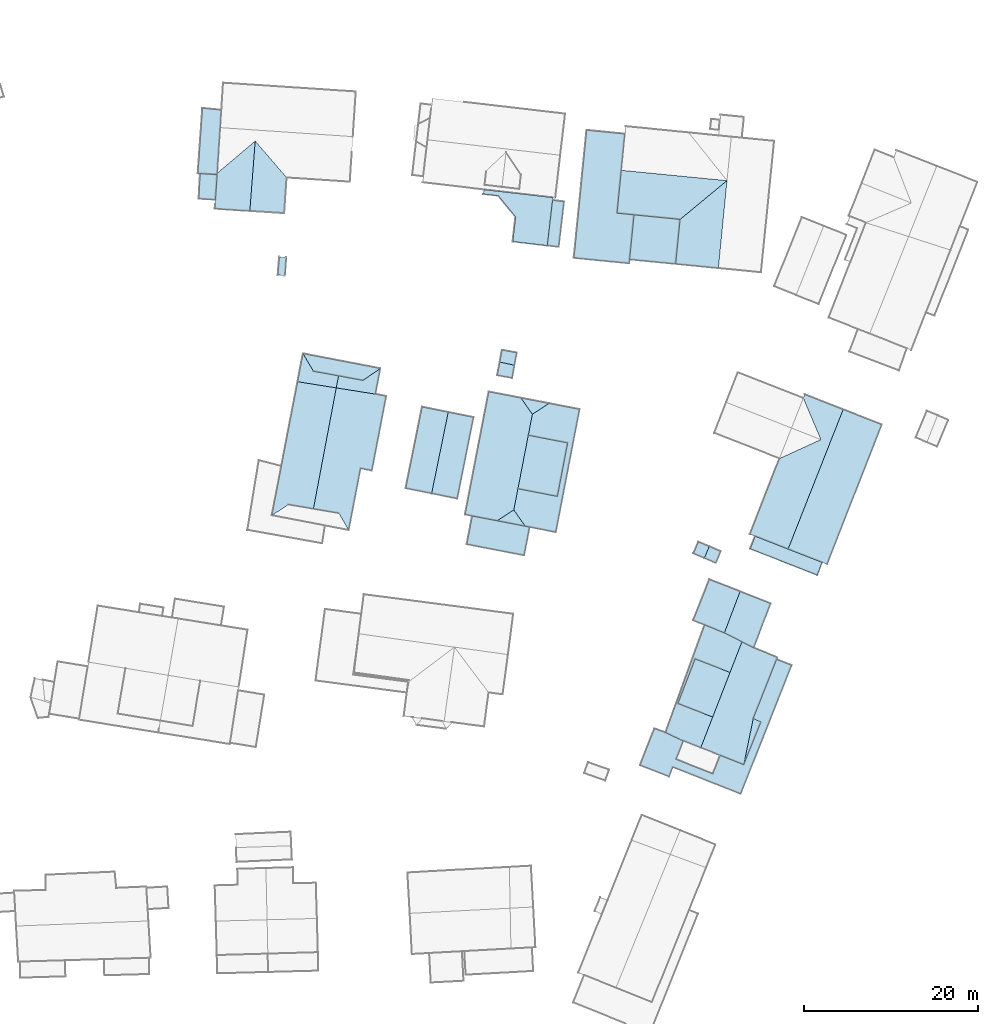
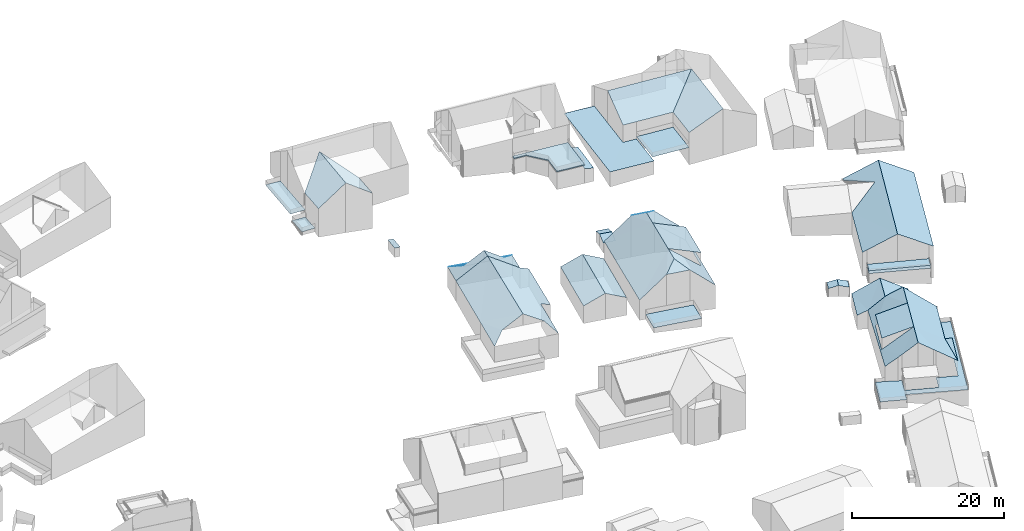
# Not in any storey, part 56 of 57: 77 roofs.
"""IFC4 building model written with IfcOpenShell, lengths in metres."""

from ifc_helpers import new_model, entity, si_unit, converted_unit, frame, origin, place, context, subcontext, project, spatial, face_set, surface_model, element, save


model = new_model("IFC4")

# Units and contexts
model_context = context("Model", 3, precision=1e-05, world=origin())
body_context = subcontext(model_context, "Body", "Model", "MODEL_VIEW")
ifc_project = project(units=[converted_unit("PLANEANGLEUNIT", "DEGREE", entity("IfcRatioMeasure", 0.0174532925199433), si_unit("PLANEANGLEUNIT", "RADIAN"), dimensions=[0, 0, 0, 0, 0, 0, 0]), si_unit("AREAUNIT", "SQUARE_METRE"), si_unit("LENGTHUNIT", "METRE")], contexts=[model_context])

# Site, building
site_placement = place(None, origin())
site = spatial("IfcSite", under=ifc_project, at=site_placement, Name="_site")
building_1_placement = place(site_placement, origin())
building_1 = spatial("IfcBuilding", under=site, at=building_1_placement, Name="_building")

# Roofs
roof_1_placement = place(building_1_placement, origin())
element("IfcRoof", 1, at=roof_1_placement, inside=building_1, Name="Roof", PredefinedType="NOTDEFINED", context=body_context, shape_type="SurfaceModel", body=[
    surface_model("IfcFaceBasedSurfaceModel", [(244.204, 127.677, 112.12), (243.928, 126.153, 111.66), (245.612, 125.843, 111.66), (245.886, 127.308, 112.12)], [face_set([[[0, 1, 2, 3]]])]),
])
roof_2_placement = place(building_1_placement, origin())
element("IfcRoof", 2, at=roof_2_placement, inside=building_1, Name="Roof", PredefinedType="NOTDEFINED", context=body_context, shape_type="SurfaceModel", body=[
    surface_model("IfcFaceBasedSurfaceModel", [(245.886, 127.308, 112.12), (246.15, 128.743, 111.66), (244.456, 129.053, 111.66), (244.204, 127.677, 112.12)], [face_set([[[0, 1, 2, 3]]])]),
])
roof_3_placement = place(building_1_placement, origin())
element("IfcRoof", 3, at=roof_3_placement, inside=building_1, Name="Roof", PredefinedType="NOTDEFINED", context=body_context, shape_type="SurfaceModel", body=[
    surface_model("IfcFaceBasedSurfaceModel", [(244.204, 127.677, 112.12), (243.928, 126.153, 111.66), (245.612, 125.843, 111.66), (245.886, 127.308, 112.12)], [face_set([[[0, 1, 2, 3]]])]),
])
roof_4_placement = place(building_1_placement, origin())
element("IfcRoof", 4, at=roof_4_placement, inside=building_1, Name="Roof", PredefinedType="NOTDEFINED", context=body_context, shape_type="SurfaceModel", body=[
    surface_model("IfcFaceBasedSurfaceModel", [(245.886, 127.308, 112.12), (246.15, 128.743, 111.66), (244.456, 129.053, 111.66), (244.204, 127.677, 112.12)], [face_set([[[0, 1, 2, 3]]])]),
])

# Building
building_2_placement = place(site_placement, origin())
building_2 = spatial("IfcBuilding", under=site, at=building_2_placement, Name="_building")

# Roofs
roof_5_placement = place(building_2_placement, origin())
element("IfcRoof", 5, at=roof_5_placement, inside=building_2, Name="Roof", PredefinedType="NOTDEFINED", context=body_context, shape_type="SurfaceModel", body=[
    surface_model("IfcFaceBasedSurfaceModel", [(246.281, 113.141, 117.86), (247.469, 119.276, 117.86), (247.936, 121.686, 117.86), (246.629, 123.558, 116.72), (242.943, 124.265, 113.45), (240.222, 110.18, 113.45), (243.898, 109.473, 116.72), (245.808, 110.72, 117.86)], [face_set([[[0, 1, 2, 3, 4, 5, 6, 7]]])]),
])
roof_6_placement = place(building_2_placement, origin())
element("IfcRoof", 6, at=roof_6_placement, inside=building_2, Name="Roof", PredefinedType="NOTDEFINED", context=body_context, shape_type="SurfaceModel", body=[
    surface_model("IfcFaceBasedSurfaceModel", [(245.808, 110.72, 117.86), (247.115, 108.848, 116.72), (250.631, 108.165, 113.45), (253.353, 122.25, 113.45), (249.846, 122.932, 116.72), (247.936, 121.686, 117.86), (247.469, 119.276, 117.86), (251.992, 118.399, 114.013), (250.807, 112.263, 114.004), (246.281, 113.141, 117.86)], [face_set([[[0, 1, 2, 3, 4, 5, 6, 7, 8, 9]]])]),
])
roof_7_placement = place(building_2_placement, origin())
element("IfcRoof", 7, at=roof_7_placement, inside=building_2, Name="Roof", PredefinedType="NOTDEFINED", context=body_context, shape_type="SurfaceModel", body=[
    surface_model("IfcFaceBasedSurfaceModel", [(246.281, 113.141, 117.86), (250.807, 112.263, 116.15), (251.992, 118.399, 116.15), (247.469, 119.276, 117.86)], [face_set([[[0, 1, 2, 3]]])]),
])
roof_8_placement = place(building_2_placement, origin())
element("IfcRoof", 8, at=roof_8_placement, inside=building_2, Name="Roof", PredefinedType="NOTDEFINED", context=body_context, shape_type="SurfaceModel", body=[
    surface_model("IfcFaceBasedSurfaceModel", [(249.846, 122.932, 116.72), (246.629, 123.558, 116.72), (247.936, 121.686, 117.86)], [face_set([[[0, 1, 2]]])]),
])
roof_9_placement = place(building_2_placement, origin())
element("IfcRoof", 9, at=roof_9_placement, inside=building_2, Name="Roof", PredefinedType="NOTDEFINED", context=body_context, shape_type="SurfaceModel", body=[
    surface_model("IfcFaceBasedSurfaceModel", [(245.808, 110.72, 117.86), (243.898, 109.473, 116.72), (247.115, 108.848, 116.72)], [face_set([[[0, 1, 2]]])]),
])
roof_10_placement = place(building_2_placement, origin())
element("IfcRoof", 10, at=roof_10_placement, inside=building_2, Name="Roof", PredefinedType="NOTDEFINED", context=body_context, shape_type="SurfaceModel", body=[
    surface_model("IfcFaceBasedSurfaceModel", [(245.808, 110.72, 117.86), (247.115, 108.848, 116.72), (250.631, 108.165, 113.45), (253.353, 122.25, 113.45), (249.846, 122.932, 116.72), (247.936, 121.686, 117.86), (247.469, 119.276, 117.86), (251.992, 118.399, 114.013), (250.807, 112.263, 114.004), (246.281, 113.141, 117.86)], [face_set([[[0, 1, 2, 3, 4, 5, 6, 7, 8, 9]]])]),
])
roof_11_placement = place(building_2_placement, origin())
element("IfcRoof", 11, at=roof_11_placement, inside=building_2, Name="Roof", PredefinedType="NOTDEFINED", context=body_context, shape_type="SurfaceModel", body=[
    surface_model("IfcFaceBasedSurfaceModel", [(246.281, 113.141, 117.86), (247.469, 119.276, 117.86), (247.936, 121.686, 117.86), (246.629, 123.558, 116.72), (242.943, 124.265, 113.45), (240.222, 110.18, 113.45), (243.898, 109.473, 116.72), (245.808, 110.72, 117.86)], [face_set([[[0, 1, 2, 3, 4, 5, 6, 7]]])]),
])
roof_12_placement = place(building_2_placement, origin())
element("IfcRoof", 12, at=roof_12_placement, inside=building_2, Name="Roof", PredefinedType="NOTDEFINED", context=body_context, shape_type="SurfaceModel", body=[
    surface_model("IfcFaceBasedSurfaceModel", [(246.281, 113.141, 117.86), (250.807, 112.263, 116.15), (251.992, 118.399, 116.15), (247.469, 119.276, 117.86)], [face_set([[[0, 1, 2, 3]]])]),
])
roof_13_placement = place(building_2_placement, origin())
element("IfcRoof", 13, at=roof_13_placement, inside=building_2, Name="Roof", PredefinedType="NOTDEFINED", context=body_context, shape_type="SurfaceModel", body=[
    surface_model("IfcFaceBasedSurfaceModel", [(249.846, 122.932, 116.72), (246.629, 123.558, 116.72), (247.936, 121.686, 117.86)], [face_set([[[0, 1, 2]]])]),
])
for number, where, name in (
    (14, (0.0, 0.0, 0.0), "Roof"),
    (15, (0.0, 0.0, 0.0), "Roof"),
):
    element("IfcRoof", number, at=place(building_2_placement, frame(where)), inside=building_2, Name=name, PredefinedType="NOTDEFINED", context=body_context, shape_type="SurfaceModel", body=[
        surface_model("IfcFaceBasedSurfaceModel", [(241.049, 110.02, 110.99), (240.423, 106.773, 110.99), (246.997, 105.499, 110.99), (247.623, 108.746, 110.99)], [face_set([[[0, 1, 2, 3]]])]),
    ])
roof_14_placement = place(building_2_placement, origin())
element("IfcRoof", 16, at=roof_14_placement, inside=building_2, Name="Roof", PredefinedType="NOTDEFINED", context=body_context, shape_type="SurfaceModel", body=[
    surface_model("IfcFaceBasedSurfaceModel", [(245.808, 110.72, 117.86), (243.898, 109.473, 116.72), (247.115, 108.848, 116.72)], [face_set([[[0, 1, 2]]])]),
])

# Building
building_3_placement = place(site_placement, origin())
building_3 = spatial("IfcBuilding", under=site, at=building_3_placement, Name="_building")

# Roofs
roof_15_placement = place(building_3_placement, origin())
element("IfcRoof", 17, at=roof_15_placement, inside=building_3, Name="Roof", PredefinedType="NOTDEFINED", context=body_context, shape_type="SurfaceModel", body=[
    surface_model("IfcFaceBasedSurfaceModel", [(249.65, 141.028, 112.65), (250.967, 140.877, 112.37), (251.569, 146.076, 112.37), (250.252, 146.227, 112.65)], [face_set([[[0, 1, 2, 3]]])]),
])
for number, where, name in (
    (18, (0.0, 0.0, 0.0), "Roof"),
    (19, (0.0, 0.0, 0.0), "Roof"),
):
    element("IfcRoof", number, at=place(building_3_placement, frame(where)), inside=building_3, Name=name, PredefinedType="NOTDEFINED", context=body_context, shape_type="SurfaceModel", body=[
        surface_model("IfcFaceBasedSurfaceModel", [(250.252, 146.227, 113.18), (250.289, 146.537, 113.18), (242.386, 147.452, 113.18), (242.324, 146.943, 113.18), (244.05, 146.743, 113.18), (246.015, 144.325, 113.18), (245.688, 141.491, 113.18), (249.65, 141.028, 113.18)], [face_set([[[0, 1, 2, 3, 4, 5, 6, 7]]])]),
    ])
roof_16_placement = place(building_3_placement, origin())
element("IfcRoof", 20, at=roof_16_placement, inside=building_3, Name="Roof", PredefinedType="NOTDEFINED", context=body_context, shape_type="SurfaceModel", body=[
    surface_model("IfcFaceBasedSurfaceModel", [(249.65, 141.028, 112.65), (250.967, 140.877, 112.37), (251.569, 146.076, 112.37), (250.252, 146.227, 112.65)], [face_set([[[0, 1, 2, 3]]])]),
])
for number, where, name in (
    (21, (0.0, 0.0, 0.0), "Roof"),
    (22, (0.0, 0.0, 0.0), "Roof"),
):
    element("IfcRoof", number, at=place(building_3_placement, frame(where)), inside=building_3, Name=name, PredefinedType="NOTDEFINED", context=body_context, shape_type="SurfaceModel", body=[
        surface_model("IfcFaceBasedSurfaceModel", [(250.289, 146.537, 113.32), (242.386, 147.452, 113.32), (242.324, 146.943, 113.32), (244.05, 146.743, 113.32), (246.015, 144.325, 113.32), (245.688, 141.491, 113.32), (249.65, 141.028, 113.32), (250.252, 146.227, 113.32)], [face_set([[[0, 1, 2, 3, 4, 5, 6, 7]]])]),
    ])

# Building
building_4_placement = place(site_placement, origin())
building_4 = spatial("IfcBuilding", under=site, at=building_4_placement, Name="_building")

# Roofs
roof_17_placement = place(building_4_placement, origin())
element("IfcRoof", 23, at=roof_17_placement, inside=building_4, Name="Roof", PredefinedType="NOTDEFINED", context=body_context, shape_type="SurfaceModel", body=[
    surface_model("IfcFaceBasedSurfaceModel", [(225.446, 124.714, 116.94), (221.017, 125.419, 114.05), (219.152, 115.735, 113.905), (218.066, 110.088, 113.82), (219.956, 111.325, 115.07), (222.827, 110.835, 116.94)], [face_set([[[0, 1, 2, 3, 4, 5]]])]),
])
roof_18_placement = place(building_4_placement, origin())
element("IfcRoof", 24, at=roof_18_placement, inside=building_4, Name="Roof", PredefinedType="NOTDEFINED", context=body_context, shape_type="SurfaceModel", body=[
    surface_model("IfcFaceBasedSurfaceModel", [(226.872, 108.391, 113.82), (228.239, 115.484, 113.82), (229.534, 115.233, 113.44), (231.174, 123.76, 113.44), (229.939, 123.999, 113.91), (225.446, 124.714, 116.94), (222.827, 110.835, 116.94), (225.757, 110.328, 115.07)], [face_set([[[0, 1, 2, 3, 4, 5, 6, 7]]])]),
])
roof_19_placement = place(building_4_placement, origin())
element("IfcRoof", 25, at=roof_19_placement, inside=building_4, Name="Roof", PredefinedType="NOTDEFINED", context=body_context, shape_type="SurfaceModel", body=[
    surface_model("IfcFaceBasedSurfaceModel", [(225.446, 124.714, 116.94), (221.017, 125.419, 114.05), (219.152, 115.735, 113.905), (218.066, 110.088, 113.82), (219.956, 111.325, 115.07), (222.827, 110.835, 116.94)], [face_set([[[0, 1, 2, 3, 4, 5]]])]),
])
roof_20_placement = place(building_4_placement, origin())
element("IfcRoof", 26, at=roof_20_placement, inside=building_4, Name="Roof", PredefinedType="NOTDEFINED", context=body_context, shape_type="SurfaceModel", body=[
    surface_model("IfcFaceBasedSurfaceModel", [(226.872, 108.391, 113.82), (228.239, 115.484, 113.82), (229.534, 115.233, 113.44), (231.174, 123.76, 113.44), (229.939, 123.999, 113.91), (225.446, 124.714, 116.94), (222.827, 110.835, 116.94), (225.757, 110.328, 115.07)], [face_set([[[0, 1, 2, 3, 4, 5, 6, 7]]])]),
])

# Building
building_5_placement = place(site_placement, origin())
building_5 = spatial("IfcBuilding", under=site, at=building_5_placement, Name="_building")

# Roofs
roof_21_placement = place(building_5_placement, origin())
element("IfcRoof", 27, at=roof_21_placement, inside=building_5, Name="Roof", PredefinedType="NOTDEFINED", context=body_context, shape_type="SurfaceModel", body=[
    surface_model("IfcFaceBasedSurfaceModel", [(222.836, 126.617, 115.06), (225.705, 126.089, 115.06), (228.505, 125.574, 115.06), (230.508, 126.938, 113.93), (221.633, 128.646, 114.1)], [face_set([[[0, 1, 2, 3, 4]]])]),
])
roof_22_placement = place(building_5_placement, origin())
element("IfcRoof", 28, at=roof_22_placement, inside=building_5, Name="Roof", PredefinedType="NOTDEFINED", context=body_context, shape_type="SurfaceModel", body=[
    surface_model("IfcFaceBasedSurfaceModel", [(228.505, 125.574, 115.06), (225.705, 126.089, 116.94), (225.446, 124.714, 116.94), (229.939, 123.999, 113.91), (230.508, 126.938, 113.93)], [face_set([[[0, 1, 2, 3, 4]]])]),
])
roof_23_placement = place(building_5_placement, origin())
element("IfcRoof", 29, at=roof_23_placement, inside=building_5, Name="Roof", PredefinedType="NOTDEFINED", context=body_context, shape_type="SurfaceModel", body=[
    surface_model("IfcFaceBasedSurfaceModel", [(222.836, 126.617, 115.06), (225.705, 126.089, 115.06), (228.505, 125.574, 115.06), (230.508, 126.938, 113.93), (221.633, 128.646, 114.1)], [face_set([[[0, 1, 2, 3, 4]]])]),
])
roof_24_placement = place(building_5_placement, origin())
element("IfcRoof", 30, at=roof_24_placement, inside=building_5, Name="Roof", PredefinedType="NOTDEFINED", context=body_context, shape_type="SurfaceModel", body=[
    surface_model("IfcFaceBasedSurfaceModel", [(228.505, 125.574, 115.06), (225.705, 126.089, 116.94), (225.446, 124.714, 116.94), (229.939, 123.999, 113.91), (230.508, 126.938, 113.93)], [face_set([[[0, 1, 2, 3, 4]]])]),
])
for number, where, name in (
    (31, (0.0, 0.0, 0.0), "Roof"),
    (32, (0.0, 0.0, 0.0), "Roof"),
):
    element("IfcRoof", number, at=place(building_5_placement, frame(where)), inside=building_5, Name=name, PredefinedType="NOTDEFINED", context=body_context, shape_type="SurfaceModel", body=[
        surface_model("IfcFaceBasedSurfaceModel", [(221.633, 128.646, 114.1), (221.017, 125.419, 114.05), (225.446, 124.714, 116.94), (225.705, 126.089, 116.94), (222.836, 126.617, 115.06)], [face_set([[[0, 1, 2, 3, 4]]])]),
    ])

# Building
building_6_placement = place(site_placement, origin())
building_6 = spatial("IfcBuilding", under=site, at=building_6_placement, Name="_building")

# Roofs
roof_25_placement = place(building_6_placement, origin())
element("IfcRoof", 33, at=roof_25_placement, inside=building_6, Name="Roof", PredefinedType="NOTDEFINED", context=body_context, shape_type="SurfaceModel", body=[
    surface_model("IfcFaceBasedSurfaceModel", [(270.607, 92.078, 113.35), (266.611, 93.622, 111.92), (264.63, 88.515, 111.92), (268.616, 86.961, 113.35)], [face_set([[[0, 1, 2, 3]]])]),
])
roof_26_placement = place(building_6_placement, origin())
element("IfcRoof", 34, at=roof_26_placement, inside=building_6, Name="Roof", PredefinedType="NOTDEFINED", context=body_context, shape_type="SurfaceModel", body=[
    surface_model("IfcFaceBasedSurfaceModel", [(270.607, 92.078, 113.35), (268.616, 86.961, 113.35), (267.253, 83.451, 113.35), (269.157, 82.696, 112.03), (269.474, 82.568, 111.81), (272.181, 81.504, 109.92), (274.146, 86.392, 109.92), (273.276, 86.812, 109.86), (275.946, 93.574, 109.86), (276.031, 93.792, 109.86), (273.325, 94.906, 112.16), (271.97, 95.589, 113.35)], [face_set([[[0, 1, 2, 3, 4, 5, 6, 7, 8, 9, 10, 11]]])]),
])
roof_27_placement = place(building_6_placement, origin())
element("IfcRoof", 35, at=roof_27_placement, inside=building_6, Name="Roof", PredefinedType="NOTDEFINED", context=body_context, shape_type="SurfaceModel", body=[
    surface_model("IfcFaceBasedSurfaceModel", [(264.775, 84.429, 107.48), (263.202, 85.186, 107.48), (261.942, 85.646, 107.48), (260.282, 81.443, 107.46), (263.614, 80.134, 107.46), (264.039, 81.224, 107.46), (271.832, 78.151, 107.4), (277.671, 92.893, 107.4), (275.946, 93.574, 107.4), (273.276, 86.812, 107.48), (274.146, 86.392, 107.48), (272.181, 81.504, 107.48), (269.474, 82.568, 107.48), (268.634, 80.447, 107.48), (264.42, 82.106, 107.48), (265.261, 84.238, 107.48)], [face_set([[[0, 1, 2, 3, 4, 5, 6, 7, 8, 9, 10, 11, 12, 13, 14, 15]]])]),
])
roof_28_placement = place(building_6_placement, origin())
element("IfcRoof", 36, at=roof_28_placement, inside=building_6, Name="Roof", PredefinedType="NOTDEFINED", context=body_context, shape_type="SurfaceModel", body=[
    surface_model("IfcFaceBasedSurfaceModel", [(270.607, 92.078, 113.35), (268.616, 86.961, 113.35), (267.253, 83.451, 113.35), (269.157, 82.696, 112.03), (269.474, 82.568, 111.81), (272.181, 81.504, 109.92), (274.146, 86.392, 109.92), (273.276, 86.812, 109.86), (275.946, 93.574, 109.86), (276.031, 93.792, 109.86), (273.325, 94.906, 112.16), (271.97, 95.589, 113.35)], [face_set([[[0, 1, 2, 3, 4, 5, 6, 7, 8, 9, 10, 11]]])]),
])
roof_29_placement = place(building_6_placement, origin())
element("IfcRoof", 37, at=roof_29_placement, inside=building_6, Name="Roof", PredefinedType="NOTDEFINED", context=body_context, shape_type="SurfaceModel", body=[
    surface_model("IfcFaceBasedSurfaceModel", [(264.775, 84.429, 107.48), (263.202, 85.186, 107.48), (261.942, 85.646, 107.48), (260.282, 81.443, 107.46), (263.614, 80.134, 107.46), (264.039, 81.224, 107.46), (271.832, 78.151, 107.4), (277.671, 92.893, 107.4), (275.946, 93.574, 107.4), (273.276, 86.812, 107.48), (274.146, 86.392, 107.48), (272.181, 81.504, 107.48), (269.474, 82.568, 107.48), (268.634, 80.447, 107.48), (264.42, 82.106, 107.48), (265.261, 84.238, 107.48)], [face_set([[[0, 1, 2, 3, 4, 5, 6, 7, 8, 9, 10, 11, 12, 13, 14, 15]]])]),
])
roof_30_placement = place(building_6_placement, origin())
element("IfcRoof", 38, at=roof_30_placement, inside=building_6, Name="Roof", PredefinedType="NOTDEFINED", context=body_context, shape_type="SurfaceModel", body=[
    surface_model("IfcFaceBasedSurfaceModel", [(270.607, 92.078, 113.35), (266.611, 93.622, 111.92), (264.63, 88.515, 111.92), (268.616, 86.961, 113.35)], [face_set([[[0, 1, 2, 3]]])]),
])
for number, where, name in (
    (39, (0.0, 0.0, 0.0), "Roof"),
    (40, (0.0, 0.0, 0.0), "Roof"),
):
    element("IfcRoof", number, at=place(building_6_placement, frame(where)), inside=building_6, Name=name, PredefinedType="NOTDEFINED", context=body_context, shape_type="SurfaceModel", body=[
        surface_model("IfcFaceBasedSurfaceModel", [(271.97, 95.589, 113.35), (269.953, 96.606, 112.01), (267.703, 97.529, 109.88), (263.202, 85.186, 109.89), (264.775, 84.429, 111.26), (265.261, 84.238, 111.67), (267.253, 83.451, 113.35), (268.616, 86.961, 113.35), (264.63, 88.515, 110.121), (266.611, 93.622, 110.16), (270.607, 92.078, 113.35)], [face_set([[[0, 1, 2, 3, 4, 5, 6, 7, 8, 9, 10]]])]),
    ])

# Building
building_7_placement = place(site_placement, origin())
building_7 = spatial("IfcBuilding", under=site, at=building_7_placement, Name="_building")

# Roofs
roof_31_placement = place(building_7_placement, origin())
element("IfcRoof", 41, at=roof_31_placement, inside=building_7, Name="Roof", PredefinedType="NOTDEFINED", context=body_context, shape_type="SurfaceModel", body=[
    surface_model("IfcFaceBasedSurfaceModel", [(271.755, 101.357, 111.33), (268.245, 102.739, 109.21), (266.374, 98.041, 109.21), (267.703, 97.529, 109.88), (269.953, 96.606, 111.33)], [face_set([[[0, 1, 2, 3, 4]]])]),
])
roof_32_placement = place(building_7_placement, origin())
element("IfcRoof", 42, at=roof_32_placement, inside=building_7, Name="Roof", PredefinedType="NOTDEFINED", context=body_context, shape_type="SurfaceModel", body=[
    surface_model("IfcFaceBasedSurfaceModel", [(269.953, 96.606, 111.33), (271.97, 95.589, 110.062), (273.325, 94.906, 109.21), (275.255, 99.974, 109.21), (271.755, 101.357, 111.33)], [face_set([[[0, 1, 2, 3, 4]]])]),
])
roof_33_placement = place(building_7_placement, origin())
element("IfcRoof", 43, at=roof_33_placement, inside=building_7, Name="Roof", PredefinedType="NOTDEFINED", context=body_context, shape_type="SurfaceModel", body=[
    surface_model("IfcFaceBasedSurfaceModel", [(271.755, 101.357, 111.33), (268.245, 102.739, 109.21), (266.374, 98.041, 109.21), (267.703, 97.529, 109.88), (269.953, 96.606, 111.33)], [face_set([[[0, 1, 2, 3, 4]]])]),
])
roof_34_placement = place(building_7_placement, origin())
element("IfcRoof", 44, at=roof_34_placement, inside=building_7, Name="Roof", PredefinedType="NOTDEFINED", context=body_context, shape_type="SurfaceModel", body=[
    surface_model("IfcFaceBasedSurfaceModel", [(269.953, 96.606, 111.33), (271.97, 95.589, 110.062), (273.325, 94.906, 109.21), (275.255, 99.974, 109.21), (271.755, 101.357, 111.33)], [face_set([[[0, 1, 2, 3, 4]]])]),
])

# Building
building_8_placement = place(site_placement, origin())
building_8 = spatial("IfcBuilding", under=site, at=building_8_placement, Name="_building")

# Roofs
for number, where, name in (
    (45, (0.0, 0.0, 0.0), "Roof"),
    (46, (0.0, 0.0, 0.0), "Roof"),
):
    element("IfcRoof", number, at=place(building_8_placement, frame(where)), inside=building_8, Name=name, PredefinedType="NOTDEFINED", context=body_context, shape_type="SurfaceModel", body=[
        surface_model("IfcFaceBasedSurfaceModel", [(218.752, 137.659, 112.71), (219.561, 137.59, 112.63), (219.73, 139.678, 112.62), (218.92, 139.736, 112.71)], [face_set([[[0, 1, 2, 3]]])]),
    ])

# Building
building_9_placement = place(site_placement, origin())
building_9 = spatial("IfcBuilding", under=site, at=building_9_placement, Name="_building")

# Roofs
roof_35_placement = place(building_9_placement, origin())
element("IfcRoof", 47, at=roof_35_placement, inside=building_9, Name="Roof", PredefinedType="NOTDEFINED", context=body_context, shape_type="SurfaceModel", body=[
    surface_model("IfcFaceBasedSurfaceModel", [(236.386, 112.601, 114.42), (239.324, 112.012, 113.07), (241.194, 121.334, 113.07), (238.286, 121.923, 114.42)], [face_set([[[0, 1, 2, 3]]])]),
])
roof_36_placement = place(building_9_placement, origin())
element("IfcRoof", 48, at=roof_36_placement, inside=building_9, Name="Roof", PredefinedType="NOTDEFINED", context=body_context, shape_type="SurfaceModel", body=[
    surface_model("IfcFaceBasedSurfaceModel", [(238.286, 121.923, 114.42), (235.298, 122.523, 113.07), (233.419, 113.201, 113.07), (236.386, 112.601, 114.42)], [face_set([[[0, 1, 2, 3]]])]),
])
roof_37_placement = place(building_9_placement, origin())
element("IfcRoof", 49, at=roof_37_placement, inside=building_9, Name="Roof", PredefinedType="NOTDEFINED", context=body_context, shape_type="SurfaceModel", body=[
    surface_model("IfcFaceBasedSurfaceModel", [(236.386, 112.601, 114.42), (239.324, 112.012, 113.07), (241.194, 121.334, 113.07), (238.286, 121.923, 114.42)], [face_set([[[0, 1, 2, 3]]])]),
])
roof_38_placement = place(building_9_placement, origin())
element("IfcRoof", 50, at=roof_38_placement, inside=building_9, Name="Roof", PredefinedType="NOTDEFINED", context=body_context, shape_type="SurfaceModel", body=[
    surface_model("IfcFaceBasedSurfaceModel", [(238.286, 121.923, 114.42), (235.298, 122.523, 113.07), (233.419, 113.201, 113.07), (236.386, 112.601, 114.42)], [face_set([[[0, 1, 2, 3]]])]),
])

# Building
building_10_placement = place(site_placement, origin())
building_10 = spatial("IfcBuilding", under=site, at=building_10_placement, Name="_building")

# Roofs
roof_39_placement = place(building_10_placement, origin())
element("IfcRoof", 51, at=roof_39_placement, inside=building_10, Name="Roof", PredefinedType="NOTDEFINED", context=body_context, shape_type="SurfaceModel", body=[
    surface_model("IfcFaceBasedSurfaceModel", [(215.531, 144.989, 119.89), (219.488, 144.736, 116.98), (219.764, 148.822, 116.92), (216.15, 153.02, 119.89)], [face_set([[[0, 1, 2, 3]]])]),
])
for number, where, name in (
    (52, (0.0, 0.0, 0.0), "Roof"),
    (53, (0.0, 0.0, 0.0), "Roof"),
):
    element("IfcRoof", number, at=place(building_10_placement, frame(where)), inside=building_10, Name=name, PredefinedType="NOTDEFINED", context=body_context, shape_type="SurfaceModel", body=[
        surface_model("IfcFaceBasedSurfaceModel", [(211.801, 149.349, 116.92), (211.789, 149.179, 116.922), (211.525, 145.253, 116.98), (215.531, 144.989, 119.89), (216.15, 153.02, 119.89)], [face_set([[[0, 1, 2, 3, 4]]])]),
    ])
roof_40_placement = place(building_10_placement, origin())
element("IfcRoof", 54, at=roof_40_placement, inside=building_10, Name="Roof", PredefinedType="NOTDEFINED", context=body_context, shape_type="SurfaceModel", body=[
    surface_model("IfcFaceBasedSurfaceModel", [(209.838, 149.285, 113.19), (209.681, 146.397, 113.19), (211.599, 146.292, 113.19), (211.787, 149.159, 113.19)], [face_set([[[0, 1, 2, 3]]])]),
])
roof_41_placement = place(building_10_placement, origin())
element("IfcRoof", 55, at=roof_41_placement, inside=building_10, Name="Roof", PredefinedType="NOTDEFINED", context=body_context, shape_type="SurfaceModel", body=[
    surface_model("IfcFaceBasedSurfaceModel", [(211.789, 149.179, 114.32), (211.801, 149.349, 114.32), (212.143, 154.564, 114.32), (212.278, 156.582, 114.32), (210.104, 156.793, 114.32), (209.578, 149.301, 114.32)], [face_set([[[0, 1, 2, 3, 4, 5]]])]),
])
roof_42_placement = place(building_10_placement, origin())
element("IfcRoof", 56, at=roof_42_placement, inside=building_10, Name="Roof", PredefinedType="NOTDEFINED", context=body_context, shape_type="SurfaceModel", body=[
    surface_model("IfcFaceBasedSurfaceModel", [(209.838, 149.285, 113.19), (209.681, 146.397, 113.19), (211.599, 146.292, 113.19), (211.787, 149.159, 113.19)], [face_set([[[0, 1, 2, 3]]])]),
])
roof_43_placement = place(building_10_placement, origin())
element("IfcRoof", 57, at=roof_43_placement, inside=building_10, Name="Roof", PredefinedType="NOTDEFINED", context=body_context, shape_type="SurfaceModel", body=[
    surface_model("IfcFaceBasedSurfaceModel", [(211.789, 149.179, 114.32), (211.801, 149.349, 114.32), (212.143, 154.564, 114.32), (212.278, 156.582, 114.32), (210.104, 156.793, 114.32), (209.578, 149.301, 114.32)], [face_set([[[0, 1, 2, 3, 4, 5]]])]),
])

# Building
building_11_placement = place(site_placement, origin())
building_11 = spatial("IfcBuilding", under=site, at=building_11_placement, Name="_building")

# Roofs
roof_44_placement = place(building_11_placement, origin())
element("IfcRoof", 58, at=roof_44_placement, inside=building_11, Name="Roof", PredefinedType="NOTDEFINED", context=body_context, shape_type="SurfaceModel", body=[
    surface_model("IfcFaceBasedSurfaceModel", [(277.263, 106.222, 113.54), (281.169, 104.699, 111.38), (281.734, 104.475, 111.07), (288.003, 120.498, 111.07), (283.581, 122.233, 113.54)], [face_set([[[0, 1, 2, 3, 4]]])]),
])
roof_45_placement = place(building_11_placement, origin())
element("IfcRoof", 59, at=roof_45_placement, inside=building_11, Name="Roof", PredefinedType="NOTDEFINED", context=body_context, shape_type="SurfaceModel", body=[
    surface_model("IfcFaceBasedSurfaceModel", [(277.263, 106.222, 109.13), (273.485, 107.7, 109.11), (272.921, 106.262, 109.11), (280.605, 103.251, 109.15), (281.169, 104.699, 109.15)], [face_set([[[0, 1, 2, 3, 4]]])]),
])
roof_46_placement = place(building_11_placement, origin())
element("IfcRoof", 60, at=roof_46_placement, inside=building_11, Name="Roof", PredefinedType="NOTDEFINED", context=body_context, shape_type="SurfaceModel", body=[
    surface_model("IfcFaceBasedSurfaceModel", [(277.263, 106.222, 113.54), (281.169, 104.699, 111.38), (281.734, 104.475, 111.07), (288.003, 120.498, 111.07), (283.581, 122.233, 113.54)], [face_set([[[0, 1, 2, 3, 4]]])]),
])
roof_47_placement = place(building_11_placement, origin())
element("IfcRoof", 61, at=roof_47_placement, inside=building_11, Name="Roof", PredefinedType="NOTDEFINED", context=body_context, shape_type="SurfaceModel", body=[
    surface_model("IfcFaceBasedSurfaceModel", [(283.581, 122.233, 113.54), (279.169, 123.957, 111.07), (279.009, 123.541, 111.07), (281.029, 118.78, 112.96), (276.275, 116.611, 111.02), (272.89, 107.934, 111.07), (273.485, 107.7, 111.41), (277.263, 106.222, 113.54)], [face_set([[[0, 1, 2, 3, 4, 5, 6, 7]]])]),
])
roof_48_placement = place(building_11_placement, origin())
element("IfcRoof", 62, at=roof_48_placement, inside=building_11, Name="Roof", PredefinedType="NOTDEFINED", context=body_context, shape_type="SurfaceModel", body=[
    surface_model("IfcFaceBasedSurfaceModel", [(277.263, 106.222, 109.13), (273.485, 107.7, 109.11), (272.921, 106.262, 109.11), (280.605, 103.251, 109.15), (281.169, 104.699, 109.15)], [face_set([[[0, 1, 2, 3, 4]]])]),
])
for number, where, name in (
    (63, (0.0, 0.0, 0.0), "Roof"),
    (64, (0.0, 0.0, 0.0), "Roof"),
):
    element("IfcRoof", number, at=place(building_11_placement, frame(where)), inside=building_11, Name=name, PredefinedType="NOTDEFINED", context=body_context, shape_type="SurfaceModel", body=[
        surface_model("IfcFaceBasedSurfaceModel", [(281.169, 104.699, 108.67), (277.263, 106.222, 108.67), (273.485, 107.7, 108.67), (272.921, 106.262, 108.67), (280.605, 103.251, 108.67)], [face_set([[[0, 1, 2, 3, 4]]])]),
    ])
roof_49_placement = place(building_11_placement, origin())
element("IfcRoof", 65, at=roof_49_placement, inside=building_11, Name="Roof", PredefinedType="NOTDEFINED", context=body_context, shape_type="SurfaceModel", body=[
    surface_model("IfcFaceBasedSurfaceModel", [(283.581, 122.233, 113.54), (279.169, 123.957, 111.07), (279.009, 123.541, 111.07), (281.029, 118.78, 112.96), (276.275, 116.611, 111.02), (272.89, 107.934, 111.07), (273.485, 107.7, 111.41), (277.263, 106.222, 113.54)], [face_set([[[0, 1, 2, 3, 4, 5, 6, 7]]])]),
])

# Building
building_12_placement = place(site_placement, origin())
building_12 = spatial("IfcBuilding", under=site, at=building_12_placement, Name="_building")

# Roofs
roof_50_placement = place(building_12_placement, origin())
element("IfcRoof", 66, at=roof_50_placement, inside=building_12, Name="Roof", PredefinedType="NOTDEFINED", context=body_context, shape_type="SurfaceModel", body=[
    surface_model("IfcFaceBasedSurfaceModel", [(258.136, 149.665, 117.01), (257.652, 144.754, 114.59), (259.598, 144.558, 114.59), (264.879, 144.034, 114.59), (270.257, 148.481, 117.01)], [face_set([[[0, 1, 2, 3, 4]]])]),
])
roof_51_placement = place(building_12_placement, origin())
element("IfcRoof", 67, at=roof_51_placement, inside=building_12, Name="Roof", PredefinedType="NOTDEFINED", context=body_context, shape_type="SurfaceModel", body=[
    surface_model("IfcFaceBasedSurfaceModel", [(270.257, 148.481, 117.01), (264.879, 144.034, 114.59), (264.369, 138.922, 114.59), (269.271, 138.438, 117.01)], [face_set([[[0, 1, 2, 3]]])]),
])
roof_52_placement = place(building_12_placement, origin())
element("IfcRoof", 68, at=roof_52_placement, inside=building_12, Name="Roof", PredefinedType="NOTDEFINED", context=body_context, shape_type="SurfaceModel", body=[
    surface_model("IfcFaceBasedSurfaceModel", [(259.598, 144.558, 111.83), (257.652, 144.754, 111.83), (258.136, 149.665, 111.846), (258.545, 153.838, 111.86), (254.162, 154.271, 111.93), (252.709, 139.616, 111.89), (259.048, 138.987, 111.83)], [face_set([[[0, 1, 2, 3, 4, 5, 6]]])]),
])
roof_53_placement = place(building_12_placement, origin())
element("IfcRoof", 69, at=roof_53_placement, inside=building_12, Name="Roof", PredefinedType="NOTDEFINED", context=body_context, shape_type="SurfaceModel", body=[
    surface_model("IfcFaceBasedSurfaceModel", [(258.136, 149.665, 117.01), (257.652, 144.754, 114.59), (259.598, 144.558, 114.59), (264.879, 144.034, 114.59), (270.257, 148.481, 117.01)], [face_set([[[0, 1, 2, 3, 4]]])]),
])
roof_54_placement = place(building_12_placement, origin())
element("IfcRoof", 70, at=roof_54_placement, inside=building_12, Name="Roof", PredefinedType="NOTDEFINED", context=body_context, shape_type="SurfaceModel", body=[
    surface_model("IfcFaceBasedSurfaceModel", [(270.257, 148.481, 117.01), (264.879, 144.034, 114.59), (264.369, 138.922, 114.59), (269.271, 138.438, 117.01)], [face_set([[[0, 1, 2, 3]]])]),
])
for number, where, name in (
    (71, (0.0, 0.0, 0.0), "Roof"),
    (72, (0.0, 0.0, 0.0), "Roof"),
):
    element("IfcRoof", number, at=place(building_12_placement, frame(where)), inside=building_12, Name=name, PredefinedType="NOTDEFINED", context=body_context, shape_type="SurfaceModel", body=[
        surface_model("IfcFaceBasedSurfaceModel", [(264.369, 138.922, 112.19), (264.879, 144.034, 112.19), (259.598, 144.558, 112.19), (259.088, 139.436, 112.19)], [face_set([[[0, 1, 2, 3]]])]),
    ])
roof_55_placement = place(building_12_placement, origin())
element("IfcRoof", 73, at=roof_55_placement, inside=building_12, Name="Roof", PredefinedType="NOTDEFINED", context=body_context, shape_type="SurfaceModel", body=[
    surface_model("IfcFaceBasedSurfaceModel", [(259.598, 144.558, 111.83), (257.652, 144.754, 111.83), (258.136, 149.665, 111.846), (258.545, 153.838, 111.86), (254.162, 154.271, 111.93), (252.709, 139.616, 111.89), (259.048, 138.987, 111.83)], [face_set([[[0, 1, 2, 3, 4, 5, 6]]])]),
])

# Building
building_13_placement = place(site_placement, origin())
building_13 = spatial("IfcBuilding", under=site, at=building_13_placement, Name="_building")

# Roofs
roof_56_placement = place(building_13_placement, origin())
element("IfcRoof", 74, at=roof_56_placement, inside=building_13, Name="Roof", PredefinedType="NOTDEFINED", context=body_context, shape_type="SurfaceModel", body=[
    surface_model("IfcFaceBasedSurfaceModel", [(267.662, 105.195, 109.23), (268.98, 104.634, 108.85), (269.542, 105.961, 108.85), (268.224, 106.523, 109.23)], [face_set([[[0, 1, 2, 3]]])]),
])
roof_57_placement = place(building_13_placement, origin())
element("IfcRoof", 75, at=roof_57_placement, inside=building_13, Name="Roof", PredefinedType="NOTDEFINED", context=body_context, shape_type="SurfaceModel", body=[
    surface_model("IfcFaceBasedSurfaceModel", [(268.224, 106.523, 109.23), (266.976, 107.052, 108.85), (266.414, 105.724, 108.85), (267.662, 105.195, 109.23)], [face_set([[[0, 1, 2, 3]]])]),
])
roof_58_placement = place(building_13_placement, origin())
element("IfcRoof", 76, at=roof_58_placement, inside=building_13, Name="Roof", PredefinedType="NOTDEFINED", context=body_context, shape_type="SurfaceModel", body=[
    surface_model("IfcFaceBasedSurfaceModel", [(267.662, 105.195, 109.23), (268.98, 104.634, 108.85), (269.542, 105.961, 108.85), (268.224, 106.523, 109.23)], [face_set([[[0, 1, 2, 3]]])]),
])
roof_59_placement = place(building_13_placement, origin())
element("IfcRoof", 77, at=roof_59_placement, inside=building_13, Name="Roof", PredefinedType="NOTDEFINED", context=body_context, shape_type="SurfaceModel", body=[
    surface_model("IfcFaceBasedSurfaceModel", [(268.224, 106.523, 109.23), (266.976, 107.052, 108.85), (266.414, 105.724, 108.85), (267.662, 105.195, 109.23)], [face_set([[[0, 1, 2, 3]]])]),
])

save(model, "model.ifc")
